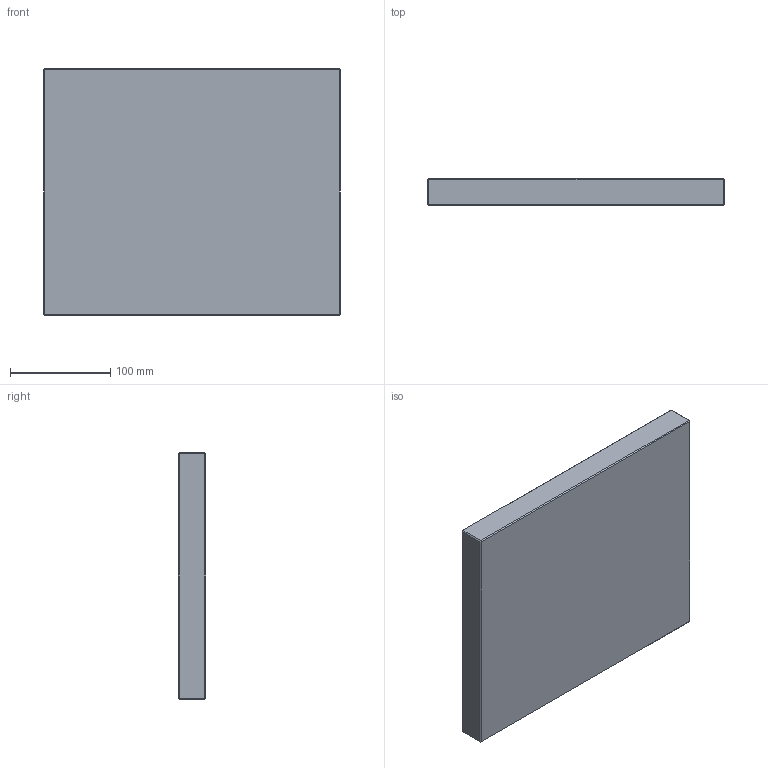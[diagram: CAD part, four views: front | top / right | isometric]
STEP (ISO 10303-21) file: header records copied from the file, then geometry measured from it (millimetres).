
FILE_DESCRIPTION (( 'STEP AP214' ), '1' );
FILE_NAME ('PBA-P-246x246x27.STEP', '2020-03-11T10:38:40', ( 'August' ), ( '' ), 'SwSTEP 2.0', 'SolidWorks 2018', '' );
FILE_SCHEMA (( 'AUTOMOTIVE_DESIGN' ));
Length unit declared in the file: millimetre
Products named in the file (1): PBA-P-246x246x27
Bounding box: 296 x 27 x 246 mm (x, y, z)
Volume: 1964899.3 mm3; surface area: 173563.7 mm2
Topology: 1 solids, 1 shells, 26 faces, 48 edges, 24 vertices
Faces by surface type: plane 26
Entity records: 634 total; most frequent: DIRECTION 102, CARTESIAN_POINT 99, ORIENTED_EDGE 96, LINE 48, VECTOR 48, EDGE_CURVE 48, AXIS2_PLACEMENT_3D 27, PLANE 26
